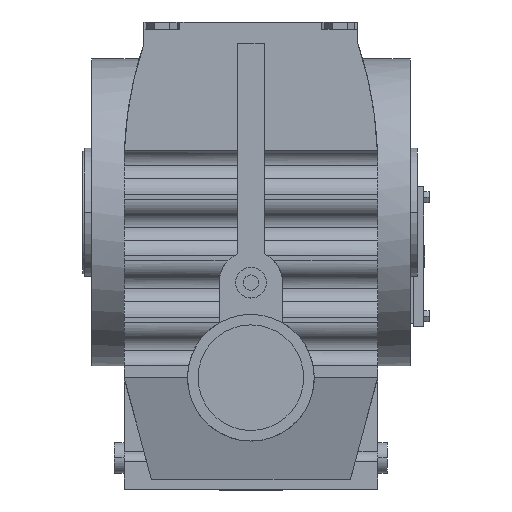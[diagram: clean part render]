
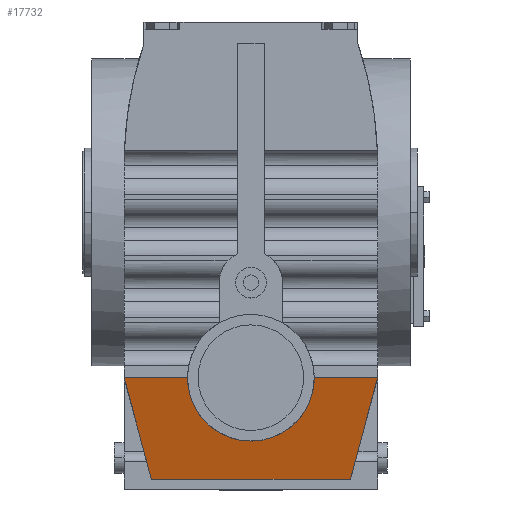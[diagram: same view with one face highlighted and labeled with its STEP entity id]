
A CAD part, top view. The second image highlights one B-rep face of the part: STEP entity #17732.
In plain terms, the highlighted planar face has unit normal (0, -0.272, 0.962).
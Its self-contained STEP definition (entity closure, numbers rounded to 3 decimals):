
#4816 = VERTEX_POINT('',#4817);
#4817 = CARTESIAN_POINT('',(-64.,-61.667,228.));
#4831 = PLANE('',#4832);
#4832 = AXIS2_PLACEMENT_3D('',#4833,#4834,#4835);
#4833 = CARTESIAN_POINT('',(-64.,-61.667,-3.));
#4834 = DIRECTION('',(-0.966,-0.259,0.));
#4835 = DIRECTION('',(0.259,-0.966,0.));
#4859 = PLANE('',#4860);
#4860 = AXIS2_PLACEMENT_3D('',#4861,#4862,#4863);
#4861 = CARTESIAN_POINT('',(64.,118.,228.));
#4862 = DIRECTION('',(0.,0.,-1.));
#4863 = DIRECTION('',(0.,1.,0.));
#8732 = VERTEX_POINT('',#8733);
#8733 = CARTESIAN_POINT('',(-50.245,-113.,213.5));
#8747 = PLANE('',#8748);
#8748 = AXIS2_PLACEMENT_3D('',#8749,#8750,#8751);
#8749 = CARTESIAN_POINT('',(64.,-113.,29.5));
#8750 = DIRECTION('',(0.,1.,0.));
#8751 = DIRECTION('',(0.,0.,1.));
#8759 = EDGE_CURVE('',#8732,#4816,#8760,.T.);
#8760 = SURFACE_CURVE('',#8761,(#8765,#8772),.PCURVE_S1.);
#8761 = LINE('',#8762,#8763);
#8762 = CARTESIAN_POINT('',(-43.123,-139.582,
    205.991));
#8763 = VECTOR('',#8764,1.);
#8764 = DIRECTION('',(-0.25,0.932,0.263));
#8765 = PCURVE('',#4831,#8766);
#8766 = DEFINITIONAL_REPRESENTATION('',(#8767),#8771);
#8767 = LINE('',#8768,#8769);
#8768 = CARTESIAN_POINT('',(80.664,208.991));
#8769 = VECTOR('',#8770,1.);
#8770 = DIRECTION('',(-0.965,0.263));
#8771 = ( GEOMETRIC_REPRESENTATION_CONTEXT(2) 
PARAMETRIC_REPRESENTATION_CONTEXT() REPRESENTATION_CONTEXT('2D SPACE',''
  ) );
#8772 = PCURVE('',#8773,#8778);
#8773 = PLANE('',#8774);
#8774 = AXIS2_PLACEMENT_3D('',#8775,#8776,#8777);
#8775 = CARTESIAN_POINT('',(64.,-113.,213.5));
#8776 = DIRECTION('',(0.,0.272,-0.962));
#8777 = DIRECTION('',(0.,0.962,0.272));
#8778 = DEFINITIONAL_REPRESENTATION('',(#8779),#8783);
#8779 = LINE('',#8780,#8781);
#8780 = CARTESIAN_POINT('',(-27.623,-107.123));
#8781 = VECTOR('',#8782,1.);
#8782 = DIRECTION('',(0.968,-0.25));
#8783 = ( GEOMETRIC_REPRESENTATION_CONTEXT(2) 
PARAMETRIC_REPRESENTATION_CONTEXT() REPRESENTATION_CONTEXT('2D SPACE',''
  ) );
#9815 = VERTEX_POINT('',#9816);
#9816 = CARTESIAN_POINT('',(-32.,-61.667,228.));
#9843 = EDGE_CURVE('',#9815,#4816,#9844,.T.);
#9844 = SURFACE_CURVE('',#9845,(#9849,#9856),.PCURVE_S1.);
#9845 = LINE('',#9846,#9847);
#9846 = CARTESIAN_POINT('',(64.,-61.667,228.));
#9847 = VECTOR('',#9848,1.);
#9848 = DIRECTION('',(-1.,0.,0.));
#9849 = PCURVE('',#4859,#9850);
#9850 = DEFINITIONAL_REPRESENTATION('',(#9851),#9855);
#9851 = LINE('',#9852,#9853);
#9852 = CARTESIAN_POINT('',(-179.667,0.));
#9853 = VECTOR('',#9854,1.);
#9854 = DIRECTION('',(0.,-1.));
#9855 = ( GEOMETRIC_REPRESENTATION_CONTEXT(2) 
PARAMETRIC_REPRESENTATION_CONTEXT() REPRESENTATION_CONTEXT('2D SPACE',''
  ) );
#9856 = PCURVE('',#8773,#9857);
#9857 = DEFINITIONAL_REPRESENTATION('',(#9858),#9862);
#9858 = LINE('',#9859,#9860);
#9859 = CARTESIAN_POINT('',(53.342,0.));
#9860 = VECTOR('',#9861,1.);
#9861 = DIRECTION('',(0.,-1.));
#9862 = ( GEOMETRIC_REPRESENTATION_CONTEXT(2) 
PARAMETRIC_REPRESENTATION_CONTEXT() REPRESENTATION_CONTEXT('2D SPACE',''
  ) );
#10201 = PLANE('',#10202);
#10202 = AXIS2_PLACEMENT_3D('',#10203,#10204,#10205);
#10203 = CARTESIAN_POINT('',(64.,-61.667,-3.));
#10204 = DIRECTION('',(0.966,-0.259,0.));
#10205 = DIRECTION('',(0.259,0.966,0.));
#17207 = VERTEX_POINT('',#17208);
#17208 = CARTESIAN_POINT('',(32.,-61.667,228.));
#17221 = CYLINDRICAL_SURFACE('',#17222,32.);
#17222 = AXIS2_PLACEMENT_3D('',#17223,#17224,#17225);
#17223 = CARTESIAN_POINT('',(0.,-61.667,232.));
#17224 = DIRECTION('',(0.,0.,-1.));
#17225 = DIRECTION('',(-1.,0.,0.));
#17248 = PLANE('',#17249);
#17249 = AXIS2_PLACEMENT_3D('',#17250,#17251,#17252);
#17250 = CARTESIAN_POINT('',(64.,118.,228.));
#17251 = DIRECTION('',(0.,0.,-1.));
#17252 = DIRECTION('',(0.,1.,0.));
#17732 = ADVANCED_FACE('',(#17733),#8773,.F.);
#17733 = FACE_BOUND('',#17734,.T.);
#17734 = EDGE_LOOP('',(#17735,#17780,#17781,#17782,#17805,#17828));
#17735 = ORIENTED_EDGE('',*,*,#17736,.F.);
#17736 = EDGE_CURVE('',#9815,#17207,#17737,.T.);
#17737 = SURFACE_CURVE('',#17738,(#17743,#17751),.PCURVE_S1.);
#17738 = ( BOUNDED_CURVE() B_SPLINE_CURVE(3,(#17739,#17740,#17741,#17742
),.UNSPECIFIED.,.F.,.F.) B_SPLINE_CURVE_WITH_KNOTS((4,4),(4.712
,7.854),.PIECEWISE_BEZIER_KNOTS.) CURVE() 
GEOMETRIC_REPRESENTATION_ITEM() RATIONAL_B_SPLINE_CURVE((1.,
0.333,0.333,1.)) REPRESENTATION_ITEM('') );
#17739 = CARTESIAN_POINT('',(-32.,-61.667,228.));
#17740 = CARTESIAN_POINT('',(-32.,-125.667,209.922));
#17741 = CARTESIAN_POINT('',(32.,-125.667,209.922));
#17742 = CARTESIAN_POINT('',(32.,-61.667,228.));
#17743 = PCURVE('',#8773,#17744);
#17744 = DEFINITIONAL_REPRESENTATION('',(#17745),#17750);
#17745 = ( BOUNDED_CURVE() B_SPLINE_CURVE(3,(#17746,#17747,#17748,#17749
),.UNSPECIFIED.,.F.,.F.) B_SPLINE_CURVE_WITH_KNOTS((4,4),(4.712
,7.854),.PIECEWISE_BEZIER_KNOTS.) CURVE() 
GEOMETRIC_REPRESENTATION_ITEM() RATIONAL_B_SPLINE_CURVE((1.,
0.333,0.333,1.)) REPRESENTATION_ITEM('') );
#17746 = CARTESIAN_POINT('',(53.342,-96.));
#17747 = CARTESIAN_POINT('',(-13.162,-96.));
#17748 = CARTESIAN_POINT('',(-13.162,-32.));
#17749 = CARTESIAN_POINT('',(53.342,-32.));
#17750 = ( GEOMETRIC_REPRESENTATION_CONTEXT(2) 
PARAMETRIC_REPRESENTATION_CONTEXT() REPRESENTATION_CONTEXT('2D SPACE',''
  ) );
#17751 = PCURVE('',#17221,#17752);
#17752 = DEFINITIONAL_REPRESENTATION('',(#17753),#17779);
#17753 = B_SPLINE_CURVE_WITH_KNOTS('',3,(#17754,#17755,#17756,#17757,
    #17758,#17759,#17760,#17761,#17762,#17763,#17764,#17765,#17766,
    #17767,#17768,#17769,#17770,#17771,#17772,#17773,#17774,#17775,
    #17776,#17777,#17778),.UNSPECIFIED.,.F.,.F.,(4,1,1,1,1,1,1,1,1,1,1,1
    ,1,1,1,1,1,1,1,1,1,1,4),(4.712,4.855,
    4.998,5.141,5.284,5.426,
    5.569,5.712,5.855,5.998,
    6.14,6.283,6.426,6.569,
    6.712,6.854,6.997,7.14,
    7.283,7.426,7.568,7.711,
    7.854),.QUASI_UNIFORM_KNOTS.);
#17754 = CARTESIAN_POINT('',(6.283,4.));
#17755 = CARTESIAN_POINT('',(6.253,4.273));
#17756 = CARTESIAN_POINT('',(6.19,4.847));
#17757 = CARTESIAN_POINT('',(6.085,5.779));
#17758 = CARTESIAN_POINT('',(5.972,6.777));
#17759 = CARTESIAN_POINT('',(5.848,7.824));
#17760 = CARTESIAN_POINT('',(5.713,8.896));
#17761 = CARTESIAN_POINT('',(5.567,9.954));
#17762 = CARTESIAN_POINT('',(5.412,10.948));
#17763 = CARTESIAN_POINT('',(5.246,11.819));
#17764 = CARTESIAN_POINT('',(5.073,12.501));
#17765 = CARTESIAN_POINT('',(4.894,12.939));
#17766 = CARTESIAN_POINT('',(4.712,13.089));
#17767 = CARTESIAN_POINT('',(4.531,12.939));
#17768 = CARTESIAN_POINT('',(4.352,12.501));
#17769 = CARTESIAN_POINT('',(4.179,11.819));
#17770 = CARTESIAN_POINT('',(4.013,10.948));
#17771 = CARTESIAN_POINT('',(3.857,9.954));
#17772 = CARTESIAN_POINT('',(3.712,8.896));
#17773 = CARTESIAN_POINT('',(3.577,7.824));
#17774 = CARTESIAN_POINT('',(3.453,6.777));
#17775 = CARTESIAN_POINT('',(3.339,5.779));
#17776 = CARTESIAN_POINT('',(3.235,4.847));
#17777 = CARTESIAN_POINT('',(3.172,4.273));
#17778 = CARTESIAN_POINT('',(3.142,4.));
#17779 = ( GEOMETRIC_REPRESENTATION_CONTEXT(2) 
PARAMETRIC_REPRESENTATION_CONTEXT() REPRESENTATION_CONTEXT('2D SPACE',''
  ) );
#17780 = ORIENTED_EDGE('',*,*,#9843,.T.);
#17781 = ORIENTED_EDGE('',*,*,#8759,.F.);
#17782 = ORIENTED_EDGE('',*,*,#17783,.F.);
#17783 = EDGE_CURVE('',#17784,#8732,#17786,.T.);
#17784 = VERTEX_POINT('',#17785);
#17785 = CARTESIAN_POINT('',(50.245,-113.,213.5));
#17786 = SURFACE_CURVE('',#17787,(#17791,#17798),.PCURVE_S1.);
#17787 = LINE('',#17788,#17789);
#17788 = CARTESIAN_POINT('',(64.,-113.,213.5));
#17789 = VECTOR('',#17790,1.);
#17790 = DIRECTION('',(-1.,0.,0.));
#17791 = PCURVE('',#8773,#17792);
#17792 = DEFINITIONAL_REPRESENTATION('',(#17793),#17797);
#17793 = LINE('',#17794,#17795);
#17794 = CARTESIAN_POINT('',(0.,0.));
#17795 = VECTOR('',#17796,1.);
#17796 = DIRECTION('',(0.,-1.));
#17797 = ( GEOMETRIC_REPRESENTATION_CONTEXT(2) 
PARAMETRIC_REPRESENTATION_CONTEXT() REPRESENTATION_CONTEXT('2D SPACE',''
  ) );
#17798 = PCURVE('',#8747,#17799);
#17799 = DEFINITIONAL_REPRESENTATION('',(#17800),#17804);
#17800 = LINE('',#17801,#17802);
#17801 = CARTESIAN_POINT('',(184.,0.));
#17802 = VECTOR('',#17803,1.);
#17803 = DIRECTION('',(0.,-1.));
#17804 = ( GEOMETRIC_REPRESENTATION_CONTEXT(2) 
PARAMETRIC_REPRESENTATION_CONTEXT() REPRESENTATION_CONTEXT('2D SPACE',''
  ) );
#17805 = ORIENTED_EDGE('',*,*,#17806,.F.);
#17806 = EDGE_CURVE('',#17807,#17784,#17809,.T.);
#17807 = VERTEX_POINT('',#17808);
#17808 = CARTESIAN_POINT('',(64.,-61.667,228.));
#17809 = SURFACE_CURVE('',#17810,(#17814,#17821),.PCURVE_S1.);
#17810 = LINE('',#17811,#17812);
#17811 = CARTESIAN_POINT('',(51.103,-109.8,
    214.404));
#17812 = VECTOR('',#17813,1.);
#17813 = DIRECTION('',(-0.25,-0.932,-0.263)
  );
#17814 = PCURVE('',#8773,#17815);
#17815 = DEFINITIONAL_REPRESENTATION('',(#17816),#17820);
#17816 = LINE('',#17817,#17818);
#17817 = CARTESIAN_POINT('',(3.326,-12.897));
#17818 = VECTOR('',#17819,1.);
#17819 = DIRECTION('',(-0.968,-0.25));
#17820 = ( GEOMETRIC_REPRESENTATION_CONTEXT(2) 
PARAMETRIC_REPRESENTATION_CONTEXT() REPRESENTATION_CONTEXT('2D SPACE',''
  ) );
#17821 = PCURVE('',#10201,#17822);
#17822 = DEFINITIONAL_REPRESENTATION('',(#17823),#17827);
#17823 = LINE('',#17824,#17825);
#17824 = CARTESIAN_POINT('',(-49.831,217.404));
#17825 = VECTOR('',#17826,1.);
#17826 = DIRECTION('',(-0.965,-0.263));
#17827 = ( GEOMETRIC_REPRESENTATION_CONTEXT(2) 
PARAMETRIC_REPRESENTATION_CONTEXT() REPRESENTATION_CONTEXT('2D SPACE',''
  ) );
#17828 = ORIENTED_EDGE('',*,*,#17829,.T.);
#17829 = EDGE_CURVE('',#17807,#17207,#17830,.T.);
#17830 = SURFACE_CURVE('',#17831,(#17835,#17842),.PCURVE_S1.);
#17831 = LINE('',#17832,#17833);
#17832 = CARTESIAN_POINT('',(64.,-61.667,228.));
#17833 = VECTOR('',#17834,1.);
#17834 = DIRECTION('',(-1.,0.,0.));
#17835 = PCURVE('',#8773,#17836);
#17836 = DEFINITIONAL_REPRESENTATION('',(#17837),#17841);
#17837 = LINE('',#17838,#17839);
#17838 = CARTESIAN_POINT('',(53.342,0.));
#17839 = VECTOR('',#17840,1.);
#17840 = DIRECTION('',(0.,-1.));
#17841 = ( GEOMETRIC_REPRESENTATION_CONTEXT(2) 
PARAMETRIC_REPRESENTATION_CONTEXT() REPRESENTATION_CONTEXT('2D SPACE',''
  ) );
#17842 = PCURVE('',#17248,#17843);
#17843 = DEFINITIONAL_REPRESENTATION('',(#17844),#17848);
#17844 = LINE('',#17845,#17846);
#17845 = CARTESIAN_POINT('',(-179.667,0.));
#17846 = VECTOR('',#17847,1.);
#17847 = DIRECTION('',(0.,-1.));
#17848 = ( GEOMETRIC_REPRESENTATION_CONTEXT(2) 
PARAMETRIC_REPRESENTATION_CONTEXT() REPRESENTATION_CONTEXT('2D SPACE',''
  ) );
